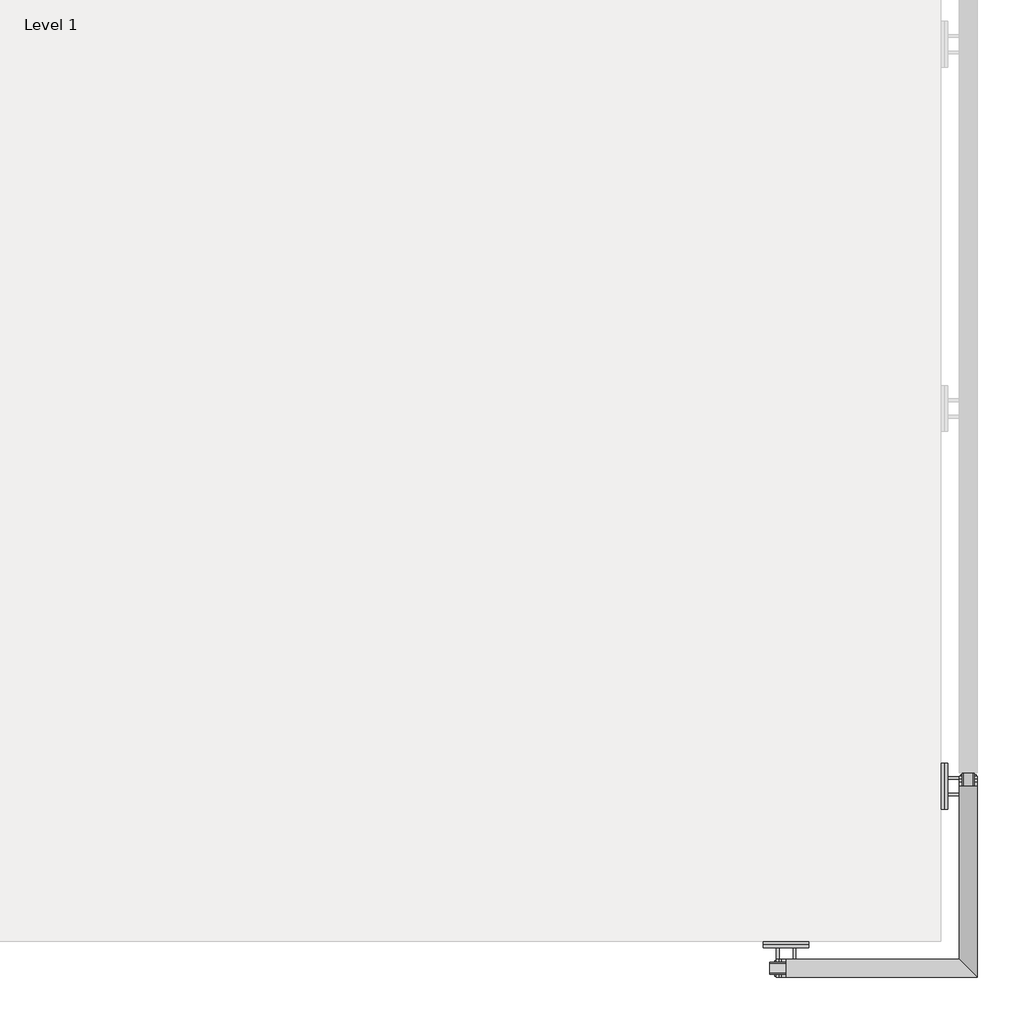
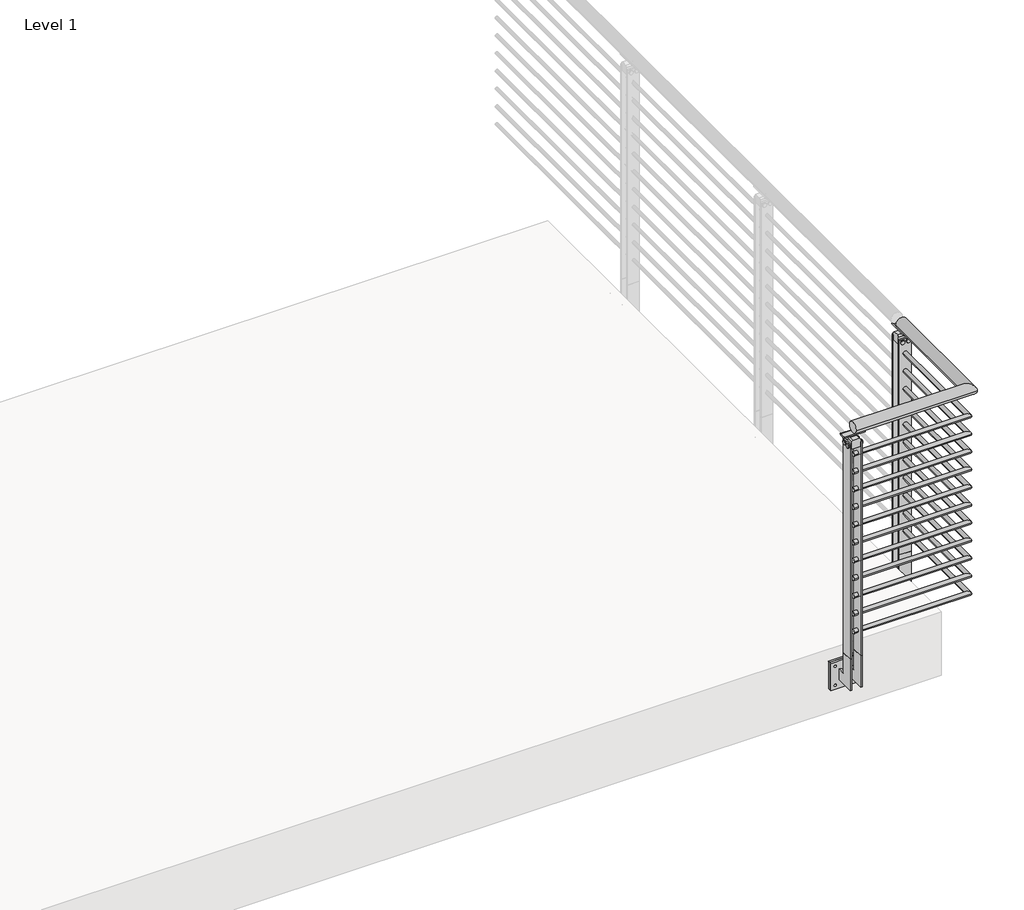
# One storey, part 3 of 36: 1 railing.
"""IFC4 building model written with IfcOpenShell, lengths in millimetres."""

from ifc_helpers import new_model, si_unit, point, frame, frame_2d, origin, origin_with_axes, place, context, project, spatial, polyline, circle_curve, ellipse_curve, trimmed, segment, composite_curve, outline, extrude, element, save
from ifc_brep_helpers import plane_surface, cylinder_surface, revolved_surface, advanced_brep

model = new_model("IFC4")

# Units and contexts
model_context = context("Model", 3, world=origin())
ifc_project = project(units=[si_unit("LENGTHUNIT", "METRE", prefix="MILLI")], contexts=[model_context])

# Site, building, storey
site = spatial("IfcSite", under=ifc_project)
building = spatial("IfcBuilding", under=site)
storey = spatial("IfcBuildingStorey", under=building, Name="Level 1", Elevation=0.0)

# Railing
placement = place(None, origin())
element("IfcRailing", 1, ObjectType="VIVA-BLADE-Multiline-Fascia Mount-Corner", at=placement, inside=storey, context=model_context, shape_type="SolidModel", body=[
    advanced_brep(
    [(-5365.1880416, -75066.0334719, 1054.1), (-5365.1880416, -75116.8334719, 1054.1), (-4831.7880416, -75116.8334719, 1054.1), (-4882.5880416, -75066.0334719, 1054.1), (-4882.5880416, -74583.4334719, 1054.1), (-4831.7880416, -74583.4334719, 1054.1)],
    [
        (0, 1, circle_curve(frame((-5365.1880416, -75091.4334719, 1054.1), z_axis=(-1.0, 0.0, 0.0), x_axis=(0.0, -1.0, 0.0)), 25.4)),
        (1, 0, circle_curve(frame((-5365.1880416, -75091.4334719, 1054.1), z_axis=(-1.0, 0.0, 0.0), x_axis=(0.0, -1.0, 0.0)), 25.4)),
        (2, 3, ellipse_curve(frame((-4857.1880416, -75091.4334719, 1054.1), z_axis=(-0.7071067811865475, -0.7071067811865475, 0.0), x_axis=(0.7071067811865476, -0.7071067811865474, 0.0)), 35.9210245, 25.4)),
        (3, 0),
        (1, 2),
        (3, 2, ellipse_curve(frame((-4857.1880416, -75091.4334719, 1054.1), z_axis=(-0.7071067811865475, -0.7071067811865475, 0.0), x_axis=(0.7071067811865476, -0.7071067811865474, 0.0)), 35.9210245, 25.4)),
        (4, 5, circle_curve(frame((-4857.1880416, -74583.4334719, 1054.1), z_axis=(0.0, 1.0, 0.0), x_axis=(1.0, 0.0, 0.0)), 25.4)),
        (5, 4, circle_curve(frame((-4857.1880416, -74583.4334719, 1054.1), z_axis=(0.0, 1.0, 0.0), x_axis=(1.0, 0.0, 0.0)), 25.4)),
        (4, 3),
        (2, 5),
    ],
    [
        plane_surface(frame((-5365.1880416, -75091.4334719, 1079.5), z_axis=(-1.0, 0.0, 0.0), x_axis=(0.0, -1.0, 0.0))),
        cylinder_surface(frame((-4857.1880416, -75091.4334719, 1054.1), z_axis=(1.0, 0.0, 0.0), x_axis=(0.0, -1.0, 0.0)), 25.4),
        plane_surface(frame((-4857.1880416, -74583.4334719, 1079.5), z_axis=(0.0, 1.0, 0.0), x_axis=(0.0, 0.0, -1.0))),
        cylinder_surface(frame((-4857.1880416, -74583.4334719, 1054.1), z_axis=(0.0, 1.0, 0.0), x_axis=(1.0, 0.0, 0.0)), 25.4),
    ],
    [
        (0, [[1, 2]]),
        (1, [[3, 4, -2, 5]]),
        (1, [[6, -5, -1, -4]]),
        (2, [[7, 8]]),
        (3, [[-7, 9, -3, 10]]),
        (3, [[-8, -10, -6, -9]]),
    ],
),
    advanced_brep(
    [(-4866.7130416, -74583.4334719, 930.275), (-4847.6630416, -74583.4334719, 930.275), (-4847.6630416, -75100.9584719, 930.275), (-4866.7130416, -75081.9084719, 930.275), (-5365.1880416, -75081.9084719, 930.275), (-5365.1880416, -75100.9584719, 930.275)],
    [
        (0, 1, circle_curve(frame((-4857.1880416, -74583.4334719, 930.275), z_axis=(0.0, 1.0, 0.0), x_axis=(1.0, 0.0, 0.0)), 9.525)),
        (1, 0, circle_curve(frame((-4857.1880416, -74583.4334719, 930.275), z_axis=(0.0, 1.0, 0.0), x_axis=(1.0, 0.0, 0.0)), 9.525)),
        (1, 2),
        (2, 3, ellipse_curve(frame((-4857.1880416, -75091.4334719, 930.275), z_axis=(0.7071067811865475, 0.7071067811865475, 0.0), x_axis=(-0.7071067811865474, 0.7071067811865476, 0.0)), 13.4703842, 9.525)),
        (3, 0),
        (3, 2, ellipse_curve(frame((-4857.1880416, -75091.4334719, 930.275), z_axis=(0.7071067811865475, 0.7071067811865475, 0.0), x_axis=(-0.7071067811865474, 0.7071067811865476, 0.0)), 13.4703842, 9.525)),
        (4, 5, circle_curve(frame((-5365.1880416, -75091.4334719, 930.275), z_axis=(-1.0, 0.0, 0.0), x_axis=(0.0, -1.0, 0.0)), 9.525)),
        (5, 4, circle_curve(frame((-5365.1880416, -75091.4334719, 930.275), z_axis=(-1.0, 0.0, 0.0), x_axis=(0.0, -1.0, 0.0)), 9.525)),
        (2, 5),
        (4, 3),
    ],
    [
        plane_surface(frame((-4857.1880416, -74583.4334719, 939.8), z_axis=(0.0, 1.0, 0.0), x_axis=(0.0, 0.0, -1.0))),
        cylinder_surface(frame((-4857.1880416, -74583.4334719, 930.275), z_axis=(0.0, 1.0, 0.0), x_axis=(1.0, 0.0, 0.0)), 9.525),
        plane_surface(frame((-5365.1880416, -75091.4334719, 939.8), z_axis=(-1.0, 0.0, 0.0), x_axis=(0.0, -1.0, 0.0))),
        cylinder_surface(frame((-4857.1880416, -75091.4334719, 930.275), z_axis=(1.0, 0.0, 0.0), x_axis=(0.0, -1.0, 0.0)), 9.525),
    ],
    [
        (0, [[1, 2]]),
        (1, [[-2, 3, 4, 5]]),
        (1, [[-1, -5, 6, -3]]),
        (2, [[7, 8]]),
        (3, [[-4, 9, -7, 10]]),
        (3, [[-6, -10, -8, -9]]),
    ],
),
    advanced_brep(
    [(-4866.7130416, -74583.4334719, 847.725), (-4847.6630416, -74583.4334719, 847.725), (-4847.6630416, -75100.9584719, 847.725), (-4866.7130416, -75081.9084719, 847.725), (-5365.1880416, -75081.9084719, 847.725), (-5365.1880416, -75100.9584719, 847.725)],
    [
        (0, 1, circle_curve(frame((-4857.1880416, -74583.4334719, 847.725), z_axis=(0.0, 1.0, 0.0), x_axis=(1.0, 0.0, 0.0)), 9.525)),
        (1, 0, circle_curve(frame((-4857.1880416, -74583.4334719, 847.725), z_axis=(0.0, 1.0, 0.0), x_axis=(1.0, 0.0, 0.0)), 9.525)),
        (1, 2),
        (2, 3, ellipse_curve(frame((-4857.1880416, -75091.4334719, 847.725), z_axis=(0.7071067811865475, 0.7071067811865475, 0.0), x_axis=(-0.7071067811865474, 0.7071067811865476, 0.0)), 13.4703842, 9.525)),
        (3, 0),
        (3, 2, ellipse_curve(frame((-4857.1880416, -75091.4334719, 847.725), z_axis=(0.7071067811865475, 0.7071067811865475, 0.0), x_axis=(-0.7071067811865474, 0.7071067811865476, 0.0)), 13.4703842, 9.525)),
        (4, 5, circle_curve(frame((-5365.1880416, -75091.4334719, 847.725), z_axis=(-1.0, 0.0, 0.0), x_axis=(0.0, -1.0, 0.0)), 9.525)),
        (5, 4, circle_curve(frame((-5365.1880416, -75091.4334719, 847.725), z_axis=(-1.0, 0.0, 0.0), x_axis=(0.0, -1.0, 0.0)), 9.525)),
        (2, 5),
        (4, 3),
    ],
    [
        plane_surface(frame((-4857.1880416, -74583.4334719, 857.25), z_axis=(0.0, 1.0, 0.0), x_axis=(0.0, 0.0, -1.0))),
        cylinder_surface(frame((-4857.1880416, -74583.4334719, 847.725), z_axis=(0.0, 1.0, 0.0), x_axis=(1.0, 0.0, 0.0)), 9.525),
        plane_surface(frame((-5365.1880416, -75091.4334719, 857.25), z_axis=(-1.0, 0.0, 0.0), x_axis=(0.0, -1.0, 0.0))),
        cylinder_surface(frame((-4857.1880416, -75091.4334719, 847.725), z_axis=(1.0, 0.0, 0.0), x_axis=(0.0, -1.0, 0.0)), 9.525),
    ],
    [
        (0, [[1, 2]]),
        (1, [[-2, 3, 4, 5]]),
        (1, [[-1, -5, 6, -3]]),
        (2, [[7, 8]]),
        (3, [[-4, 9, -7, 10]]),
        (3, [[-6, -10, -8, -9]]),
    ],
),
    advanced_brep(
    [(-4866.7130416, -74583.4334719, 765.175), (-4847.6630416, -74583.4334719, 765.175), (-4847.6630416, -75100.9584719, 765.175), (-4866.7130416, -75081.9084719, 765.175), (-5365.1880416, -75081.9084719, 765.175), (-5365.1880416, -75100.9584719, 765.175)],
    [
        (0, 1, circle_curve(frame((-4857.1880416, -74583.4334719, 765.175), z_axis=(0.0, 1.0, 0.0), x_axis=(1.0, 0.0, 0.0)), 9.525)),
        (1, 0, circle_curve(frame((-4857.1880416, -74583.4334719, 765.175), z_axis=(0.0, 1.0, 0.0), x_axis=(1.0, 0.0, 0.0)), 9.525)),
        (1, 2),
        (2, 3, ellipse_curve(frame((-4857.1880416, -75091.4334719, 765.175), z_axis=(0.7071067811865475, 0.7071067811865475, 0.0), x_axis=(-0.7071067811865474, 0.7071067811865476, 0.0)), 13.4703842, 9.525)),
        (3, 0),
        (3, 2, ellipse_curve(frame((-4857.1880416, -75091.4334719, 765.175), z_axis=(0.7071067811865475, 0.7071067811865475, 0.0), x_axis=(-0.7071067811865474, 0.7071067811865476, 0.0)), 13.4703842, 9.525)),
        (4, 5, circle_curve(frame((-5365.1880416, -75091.4334719, 765.175), z_axis=(-1.0, 0.0, 0.0), x_axis=(0.0, -1.0, 0.0)), 9.525)),
        (5, 4, circle_curve(frame((-5365.1880416, -75091.4334719, 765.175), z_axis=(-1.0, 0.0, 0.0), x_axis=(0.0, -1.0, 0.0)), 9.525)),
        (2, 5),
        (4, 3),
    ],
    [
        plane_surface(frame((-4857.1880416, -74583.4334719, 774.7), z_axis=(0.0, 1.0, 0.0), x_axis=(0.0, 0.0, -1.0))),
        cylinder_surface(frame((-4857.1880416, -74583.4334719, 765.175), z_axis=(0.0, 1.0, 0.0), x_axis=(1.0, 0.0, 0.0)), 9.525),
        plane_surface(frame((-5365.1880416, -75091.4334719, 774.7), z_axis=(-1.0, 0.0, 0.0), x_axis=(0.0, -1.0, 0.0))),
        cylinder_surface(frame((-4857.1880416, -75091.4334719, 765.175), z_axis=(1.0, 0.0, 0.0), x_axis=(0.0, -1.0, 0.0)), 9.525),
    ],
    [
        (0, [[1, 2]]),
        (1, [[-2, 3, 4, 5]]),
        (1, [[-1, -5, 6, -3]]),
        (2, [[7, 8]]),
        (3, [[-4, 9, -7, 10]]),
        (3, [[-6, -10, -8, -9]]),
    ],
),
    advanced_brep(
    [(-4866.7130416, -74583.4334719, 682.625), (-4847.6630416, -74583.4334719, 682.625), (-4847.6630416, -75100.9584719, 682.625), (-4866.7130416, -75081.9084719, 682.625), (-5365.1880416, -75081.9084719, 682.625), (-5365.1880416, -75100.9584719, 682.625)],
    [
        (0, 1, circle_curve(frame((-4857.1880416, -74583.4334719, 682.625), z_axis=(0.0, 1.0, 0.0), x_axis=(1.0, 0.0, 0.0)), 9.525)),
        (1, 0, circle_curve(frame((-4857.1880416, -74583.4334719, 682.625), z_axis=(0.0, 1.0, 0.0), x_axis=(1.0, 0.0, 0.0)), 9.525)),
        (1, 2),
        (2, 3, ellipse_curve(frame((-4857.1880416, -75091.4334719, 682.625), z_axis=(0.7071067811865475, 0.7071067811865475, 0.0), x_axis=(-0.7071067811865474, 0.7071067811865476, 0.0)), 13.4703842, 9.525)),
        (3, 0),
        (3, 2, ellipse_curve(frame((-4857.1880416, -75091.4334719, 682.625), z_axis=(0.7071067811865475, 0.7071067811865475, 0.0), x_axis=(-0.7071067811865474, 0.7071067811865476, 0.0)), 13.4703842, 9.525)),
        (4, 5, circle_curve(frame((-5365.1880416, -75091.4334719, 682.625), z_axis=(-1.0, 0.0, 0.0), x_axis=(0.0, -1.0, 0.0)), 9.525)),
        (5, 4, circle_curve(frame((-5365.1880416, -75091.4334719, 682.625), z_axis=(-1.0, 0.0, 0.0), x_axis=(0.0, -1.0, 0.0)), 9.525)),
        (2, 5),
        (4, 3),
    ],
    [
        plane_surface(frame((-4857.1880416, -74583.4334719, 692.15), z_axis=(0.0, 1.0, 0.0), x_axis=(0.0, 0.0, -1.0))),
        cylinder_surface(frame((-4857.1880416, -74583.4334719, 682.625), z_axis=(0.0, 1.0, 0.0), x_axis=(1.0, 0.0, 0.0)), 9.525),
        plane_surface(frame((-5365.1880416, -75091.4334719, 692.15), z_axis=(-1.0, 0.0, 0.0), x_axis=(0.0, -1.0, 0.0))),
        cylinder_surface(frame((-4857.1880416, -75091.4334719, 682.625), z_axis=(1.0, 0.0, 0.0), x_axis=(0.0, -1.0, 0.0)), 9.525),
    ],
    [
        (0, [[1, 2]]),
        (1, [[-2, 3, 4, 5]]),
        (1, [[-1, -5, 6, -3]]),
        (2, [[7, 8]]),
        (3, [[-4, 9, -7, 10]]),
        (3, [[-6, -10, -8, -9]]),
    ],
),
    advanced_brep(
    [(-4866.7130416, -74583.4334719, 600.075), (-4847.6630416, -74583.4334719, 600.075), (-4847.6630416, -75100.9584719, 600.075), (-4866.7130416, -75081.9084719, 600.075), (-5365.1880416, -75081.9084719, 600.075), (-5365.1880416, -75100.9584719, 600.075)],
    [
        (0, 1, circle_curve(frame((-4857.1880416, -74583.4334719, 600.075), z_axis=(0.0, 1.0, 0.0), x_axis=(1.0, 0.0, 0.0)), 9.525)),
        (1, 0, circle_curve(frame((-4857.1880416, -74583.4334719, 600.075), z_axis=(0.0, 1.0, 0.0), x_axis=(1.0, 0.0, 0.0)), 9.525)),
        (1, 2),
        (2, 3, ellipse_curve(frame((-4857.1880416, -75091.4334719, 600.075), z_axis=(0.7071067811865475, 0.7071067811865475, 0.0), x_axis=(-0.7071067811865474, 0.7071067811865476, 0.0)), 13.4703842, 9.525)),
        (3, 0),
        (3, 2, ellipse_curve(frame((-4857.1880416, -75091.4334719, 600.075), z_axis=(0.7071067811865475, 0.7071067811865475, 0.0), x_axis=(-0.7071067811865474, 0.7071067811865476, 0.0)), 13.4703842, 9.525)),
        (4, 5, circle_curve(frame((-5365.1880416, -75091.4334719, 600.075), z_axis=(-1.0, 0.0, 0.0), x_axis=(0.0, -1.0, 0.0)), 9.525)),
        (5, 4, circle_curve(frame((-5365.1880416, -75091.4334719, 600.075), z_axis=(-1.0, 0.0, 0.0), x_axis=(0.0, -1.0, 0.0)), 9.525)),
        (2, 5),
        (4, 3),
    ],
    [
        plane_surface(frame((-4857.1880416, -74583.4334719, 609.6), z_axis=(0.0, 1.0, 0.0), x_axis=(0.0, 0.0, -1.0))),
        cylinder_surface(frame((-4857.1880416, -74583.4334719, 600.075), z_axis=(0.0, 1.0, 0.0), x_axis=(1.0, 0.0, 0.0)), 9.525),
        plane_surface(frame((-5365.1880416, -75091.4334719, 609.6), z_axis=(-1.0, 0.0, 0.0), x_axis=(0.0, -1.0, 0.0))),
        cylinder_surface(frame((-4857.1880416, -75091.4334719, 600.075), z_axis=(1.0, 0.0, 0.0), x_axis=(0.0, -1.0, 0.0)), 9.525),
    ],
    [
        (0, [[1, 2]]),
        (1, [[-2, 3, 4, 5]]),
        (1, [[-1, -5, 6, -3]]),
        (2, [[7, 8]]),
        (3, [[-4, 9, -7, 10]]),
        (3, [[-6, -10, -8, -9]]),
    ],
),
    advanced_brep(
    [(-4866.7130416, -74583.4334719, 517.525), (-4847.6630416, -74583.4334719, 517.525), (-4847.6630416, -75100.9584719, 517.525), (-4866.7130416, -75081.9084719, 517.525), (-5365.1880416, -75081.9084719, 517.525), (-5365.1880416, -75100.9584719, 517.525)],
    [
        (0, 1, circle_curve(frame((-4857.1880416, -74583.4334719, 517.525), z_axis=(0.0, 1.0, 0.0), x_axis=(1.0, 0.0, 0.0)), 9.525)),
        (1, 0, circle_curve(frame((-4857.1880416, -74583.4334719, 517.525), z_axis=(0.0, 1.0, 0.0), x_axis=(1.0, 0.0, 0.0)), 9.525)),
        (1, 2),
        (2, 3, ellipse_curve(frame((-4857.1880416, -75091.4334719, 517.525), z_axis=(0.7071067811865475, 0.7071067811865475, 0.0), x_axis=(-0.7071067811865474, 0.7071067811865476, 0.0)), 13.4703842, 9.525)),
        (3, 0),
        (3, 2, ellipse_curve(frame((-4857.1880416, -75091.4334719, 517.525), z_axis=(0.7071067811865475, 0.7071067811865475, 0.0), x_axis=(-0.7071067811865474, 0.7071067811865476, 0.0)), 13.4703842, 9.525)),
        (4, 5, circle_curve(frame((-5365.1880416, -75091.4334719, 517.525), z_axis=(-1.0, 0.0, 0.0), x_axis=(0.0, -1.0, 0.0)), 9.525)),
        (5, 4, circle_curve(frame((-5365.1880416, -75091.4334719, 517.525), z_axis=(-1.0, 0.0, 0.0), x_axis=(0.0, -1.0, 0.0)), 9.525)),
        (2, 5),
        (4, 3),
    ],
    [
        plane_surface(frame((-4857.1880416, -74583.4334719, 527.05), z_axis=(0.0, 1.0, 0.0), x_axis=(0.0, 0.0, -1.0))),
        cylinder_surface(frame((-4857.1880416, -74583.4334719, 517.525), z_axis=(0.0, 1.0, 0.0), x_axis=(1.0, 0.0, 0.0)), 9.525),
        plane_surface(frame((-5365.1880416, -75091.4334719, 527.05), z_axis=(-1.0, 0.0, 0.0), x_axis=(0.0, -1.0, 0.0))),
        cylinder_surface(frame((-4857.1880416, -75091.4334719, 517.525), z_axis=(1.0, 0.0, 0.0), x_axis=(0.0, -1.0, 0.0)), 9.525),
    ],
    [
        (0, [[1, 2]]),
        (1, [[-2, 3, 4, 5]]),
        (1, [[-1, -5, 6, -3]]),
        (2, [[7, 8]]),
        (3, [[-4, 9, -7, 10]]),
        (3, [[-6, -10, -8, -9]]),
    ],
),
    advanced_brep(
    [(-4866.7130416, -74583.4334719, 434.975), (-4847.6630416, -74583.4334719, 434.975), (-4847.6630416, -75100.9584719, 434.975), (-4866.7130416, -75081.9084719, 434.975), (-5365.1880416, -75081.9084719, 434.975), (-5365.1880416, -75100.9584719, 434.975)],
    [
        (0, 1, circle_curve(frame((-4857.1880416, -74583.4334719, 434.975), z_axis=(0.0, 1.0, 0.0), x_axis=(1.0, 0.0, 0.0)), 9.525)),
        (1, 0, circle_curve(frame((-4857.1880416, -74583.4334719, 434.975), z_axis=(0.0, 1.0, 0.0), x_axis=(1.0, 0.0, 0.0)), 9.525)),
        (1, 2),
        (2, 3, ellipse_curve(frame((-4857.1880416, -75091.4334719, 434.975), z_axis=(0.7071067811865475, 0.7071067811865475, 0.0), x_axis=(-0.7071067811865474, 0.7071067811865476, 0.0)), 13.4703842, 9.525)),
        (3, 0),
        (3, 2, ellipse_curve(frame((-4857.1880416, -75091.4334719, 434.975), z_axis=(0.7071067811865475, 0.7071067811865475, 0.0), x_axis=(-0.7071067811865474, 0.7071067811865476, 0.0)), 13.4703842, 9.525)),
        (4, 5, circle_curve(frame((-5365.1880416, -75091.4334719, 434.975), z_axis=(-1.0, 0.0, 0.0), x_axis=(0.0, -1.0, 0.0)), 9.525)),
        (5, 4, circle_curve(frame((-5365.1880416, -75091.4334719, 434.975), z_axis=(-1.0, 0.0, 0.0), x_axis=(0.0, -1.0, 0.0)), 9.525)),
        (2, 5),
        (4, 3),
    ],
    [
        plane_surface(frame((-4857.1880416, -74583.4334719, 444.5), z_axis=(0.0, 1.0, 0.0), x_axis=(0.0, 0.0, -1.0))),
        cylinder_surface(frame((-4857.1880416, -74583.4334719, 434.975), z_axis=(0.0, 1.0, 0.0), x_axis=(1.0, 0.0, 0.0)), 9.525),
        plane_surface(frame((-5365.1880416, -75091.4334719, 444.5), z_axis=(-1.0, 0.0, 0.0), x_axis=(0.0, -1.0, 0.0))),
        cylinder_surface(frame((-4857.1880416, -75091.4334719, 434.975), z_axis=(1.0, 0.0, 0.0), x_axis=(0.0, -1.0, 0.0)), 9.525),
    ],
    [
        (0, [[1, 2]]),
        (1, [[-2, 3, 4, 5]]),
        (1, [[-1, -5, 6, -3]]),
        (2, [[7, 8]]),
        (3, [[-4, 9, -7, 10]]),
        (3, [[-6, -10, -8, -9]]),
    ],
),
    advanced_brep(
    [(-4866.7130416, -74583.4334719, 352.425), (-4847.6630416, -74583.4334719, 352.425), (-4847.6630416, -75100.9584719, 352.425), (-4866.7130416, -75081.9084719, 352.425), (-5365.1880416, -75081.9084719, 352.425), (-5365.1880416, -75100.9584719, 352.425)],
    [
        (0, 1, circle_curve(frame((-4857.1880416, -74583.4334719, 352.425), z_axis=(0.0, 1.0, 0.0), x_axis=(1.0, 0.0, 0.0)), 9.525)),
        (1, 0, circle_curve(frame((-4857.1880416, -74583.4334719, 352.425), z_axis=(0.0, 1.0, 0.0), x_axis=(1.0, 0.0, 0.0)), 9.525)),
        (1, 2),
        (2, 3, ellipse_curve(frame((-4857.1880416, -75091.4334719, 352.425), z_axis=(0.7071067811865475, 0.7071067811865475, 0.0), x_axis=(-0.7071067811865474, 0.7071067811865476, 0.0)), 13.4703842, 9.525)),
        (3, 0),
        (3, 2, ellipse_curve(frame((-4857.1880416, -75091.4334719, 352.425), z_axis=(0.7071067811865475, 0.7071067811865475, 0.0), x_axis=(-0.7071067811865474, 0.7071067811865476, 0.0)), 13.4703842, 9.525)),
        (4, 5, circle_curve(frame((-5365.1880416, -75091.4334719, 352.425), z_axis=(-1.0, 0.0, 0.0), x_axis=(0.0, -1.0, 0.0)), 9.525)),
        (5, 4, circle_curve(frame((-5365.1880416, -75091.4334719, 352.425), z_axis=(-1.0, 0.0, 0.0), x_axis=(0.0, -1.0, 0.0)), 9.525)),
        (2, 5),
        (4, 3),
    ],
    [
        plane_surface(frame((-4857.1880416, -74583.4334719, 361.95), z_axis=(0.0, 1.0, 0.0), x_axis=(0.0, 0.0, -1.0))),
        cylinder_surface(frame((-4857.1880416, -74583.4334719, 352.425), z_axis=(0.0, 1.0, 0.0), x_axis=(1.0, 0.0, 0.0)), 9.525),
        plane_surface(frame((-5365.1880416, -75091.4334719, 361.95), z_axis=(-1.0, 0.0, 0.0), x_axis=(0.0, -1.0, 0.0))),
        cylinder_surface(frame((-4857.1880416, -75091.4334719, 352.425), z_axis=(1.0, 0.0, 0.0), x_axis=(0.0, -1.0, 0.0)), 9.525),
    ],
    [
        (0, [[1, 2]]),
        (1, [[-2, 3, 4, 5]]),
        (1, [[-1, -5, 6, -3]]),
        (2, [[7, 8]]),
        (3, [[-4, 9, -7, 10]]),
        (3, [[-6, -10, -8, -9]]),
    ],
),
    advanced_brep(
    [(-4866.7130416, -74583.4334719, 269.875), (-4847.6630416, -74583.4334719, 269.875), (-4847.6630416, -75100.9584719, 269.875), (-4866.7130416, -75081.9084719, 269.875), (-5365.1880416, -75081.9084719, 269.875), (-5365.1880416, -75100.9584719, 269.875)],
    [
        (0, 1, circle_curve(frame((-4857.1880416, -74583.4334719, 269.875), z_axis=(0.0, 1.0, 0.0), x_axis=(1.0, 0.0, 0.0)), 9.525)),
        (1, 0, circle_curve(frame((-4857.1880416, -74583.4334719, 269.875), z_axis=(0.0, 1.0, 0.0), x_axis=(1.0, 0.0, 0.0)), 9.525)),
        (1, 2),
        (2, 3, ellipse_curve(frame((-4857.1880416, -75091.4334719, 269.875), z_axis=(0.7071067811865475, 0.7071067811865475, 0.0), x_axis=(-0.7071067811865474, 0.7071067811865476, 0.0)), 13.4703842, 9.525)),
        (3, 0),
        (3, 2, ellipse_curve(frame((-4857.1880416, -75091.4334719, 269.875), z_axis=(0.7071067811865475, 0.7071067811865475, 0.0), x_axis=(-0.7071067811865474, 0.7071067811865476, 0.0)), 13.4703842, 9.525)),
        (4, 5, circle_curve(frame((-5365.1880416, -75091.4334719, 269.875), z_axis=(-1.0, 0.0, 0.0), x_axis=(0.0, -1.0, 0.0)), 9.525)),
        (5, 4, circle_curve(frame((-5365.1880416, -75091.4334719, 269.875), z_axis=(-1.0, 0.0, 0.0), x_axis=(0.0, -1.0, 0.0)), 9.525)),
        (2, 5),
        (4, 3),
    ],
    [
        plane_surface(frame((-4857.1880416, -74583.4334719, 279.4), z_axis=(0.0, 1.0, 0.0), x_axis=(0.0, 0.0, -1.0))),
        cylinder_surface(frame((-4857.1880416, -74583.4334719, 269.875), z_axis=(0.0, 1.0, 0.0), x_axis=(1.0, 0.0, 0.0)), 9.525),
        plane_surface(frame((-5365.1880416, -75091.4334719, 279.4), z_axis=(-1.0, 0.0, 0.0), x_axis=(0.0, -1.0, 0.0))),
        cylinder_surface(frame((-4857.1880416, -75091.4334719, 269.875), z_axis=(1.0, 0.0, 0.0), x_axis=(0.0, -1.0, 0.0)), 9.525),
    ],
    [
        (0, [[1, 2]]),
        (1, [[-2, 3, 4, 5]]),
        (1, [[-1, -5, 6, -3]]),
        (2, [[7, 8]]),
        (3, [[-4, 9, -7, 10]]),
        (3, [[-6, -10, -8, -9]]),
    ],
),
    advanced_brep(
    [(-4866.7130416, -74583.4334719, 187.325), (-4847.6630416, -74583.4334719, 187.325), (-4847.6630416, -75100.9584719, 187.325), (-4866.7130416, -75081.9084719, 187.325), (-5365.1880416, -75081.9084719, 187.325), (-5365.1880416, -75100.9584719, 187.325)],
    [
        (0, 1, circle_curve(frame((-4857.1880416, -74583.4334719, 187.325), z_axis=(0.0, 1.0, 0.0), x_axis=(1.0, 0.0, 0.0)), 9.525)),
        (1, 0, circle_curve(frame((-4857.1880416, -74583.4334719, 187.325), z_axis=(0.0, 1.0, 0.0), x_axis=(1.0, 0.0, 0.0)), 9.525)),
        (1, 2),
        (2, 3, ellipse_curve(frame((-4857.1880416, -75091.4334719, 187.325), z_axis=(0.7071067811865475, 0.7071067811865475, 0.0), x_axis=(-0.7071067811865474, 0.7071067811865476, 0.0)), 13.4703842, 9.525)),
        (3, 0),
        (3, 2, ellipse_curve(frame((-4857.1880416, -75091.4334719, 187.325), z_axis=(0.7071067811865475, 0.7071067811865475, 0.0), x_axis=(-0.7071067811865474, 0.7071067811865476, 0.0)), 13.4703842, 9.525)),
        (4, 5, circle_curve(frame((-5365.1880416, -75091.4334719, 187.325), z_axis=(-1.0, 0.0, 0.0), x_axis=(0.0, -1.0, 0.0)), 9.525)),
        (5, 4, circle_curve(frame((-5365.1880416, -75091.4334719, 187.325), z_axis=(-1.0, 0.0, 0.0), x_axis=(0.0, -1.0, 0.0)), 9.525)),
        (2, 5),
        (4, 3),
    ],
    [
        plane_surface(frame((-4857.1880416, -74583.4334719, 196.85), z_axis=(0.0, 1.0, 0.0), x_axis=(0.0, 0.0, -1.0))),
        cylinder_surface(frame((-4857.1880416, -74583.4334719, 187.325), z_axis=(0.0, 1.0, 0.0), x_axis=(1.0, 0.0, 0.0)), 9.525),
        plane_surface(frame((-5365.1880416, -75091.4334719, 196.85), z_axis=(-1.0, 0.0, 0.0), x_axis=(0.0, -1.0, 0.0))),
        cylinder_surface(frame((-4857.1880416, -75091.4334719, 187.325), z_axis=(1.0, 0.0, 0.0), x_axis=(0.0, -1.0, 0.0)), 9.525),
    ],
    [
        (0, [[1, 2]]),
        (1, [[-2, 3, 4, 5]]),
        (1, [[-1, -5, 6, -3]]),
        (2, [[7, 8]]),
        (3, [[-4, 9, -7, 10]]),
        (3, [[-6, -10, -8, -9]]),
    ],
),
    advanced_brep(
    [(-4866.7130416, -74583.4334719, 104.775), (-4847.6630416, -74583.4334719, 104.775), (-4847.6630416, -75100.9584719, 104.775), (-4866.7130416, -75081.9084719, 104.775), (-5365.1880416, -75081.9084719, 104.775), (-5365.1880416, -75100.9584719, 104.775)],
    [
        (0, 1, circle_curve(frame((-4857.1880416, -74583.4334719, 104.775), z_axis=(0.0, 1.0, 0.0), x_axis=(1.0, 0.0, 0.0)), 9.525)),
        (1, 0, circle_curve(frame((-4857.1880416, -74583.4334719, 104.775), z_axis=(0.0, 1.0, 0.0), x_axis=(1.0, 0.0, 0.0)), 9.525)),
        (1, 2),
        (2, 3, ellipse_curve(frame((-4857.1880416, -75091.4334719, 104.775), z_axis=(0.7071067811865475, 0.7071067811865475, 0.0), x_axis=(-0.7071067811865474, 0.7071067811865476, 0.0)), 13.4703842, 9.525)),
        (3, 0),
        (3, 2, ellipse_curve(frame((-4857.1880416, -75091.4334719, 104.775), z_axis=(0.7071067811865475, 0.7071067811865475, 0.0), x_axis=(-0.7071067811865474, 0.7071067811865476, 0.0)), 13.4703842, 9.525)),
        (4, 5, circle_curve(frame((-5365.1880416, -75091.4334719, 104.775), z_axis=(-1.0, 0.0, 0.0), x_axis=(0.0, -1.0, 0.0)), 9.525)),
        (5, 4, circle_curve(frame((-5365.1880416, -75091.4334719, 104.775), z_axis=(-1.0, 0.0, 0.0), x_axis=(0.0, -1.0, 0.0)), 9.525)),
        (2, 5),
        (4, 3),
    ],
    [
        plane_surface(frame((-4857.1880416, -74583.4334719, 114.3), z_axis=(0.0, 1.0, 0.0), x_axis=(0.0, 0.0, -1.0))),
        cylinder_surface(frame((-4857.1880416, -74583.4334719, 104.775), z_axis=(0.0, 1.0, 0.0), x_axis=(1.0, 0.0, 0.0)), 9.525),
        plane_surface(frame((-5365.1880416, -75091.4334719, 114.3), z_axis=(-1.0, 0.0, 0.0), x_axis=(0.0, -1.0, 0.0))),
        cylinder_surface(frame((-4857.1880416, -75091.4334719, 104.775), z_axis=(1.0, 0.0, 0.0), x_axis=(0.0, -1.0, 0.0)), 9.525),
    ],
    [
        (0, [[1, 2]]),
        (1, [[-2, 3, 4, 5]]),
        (1, [[-1, -5, 6, -3]]),
        (2, [[7, 8]]),
        (3, [[-4, 9, -7, 10]]),
        (3, [[-6, -10, -8, -9]]),
    ],
),
    extrude(outline(polyline([(-75116.8359998, -146.05), (-75116.8359998, 0.0), (-75066.0359998, 0.0), (-75066.0359998, -95.25), (-75034.2832661, -95.25), (-75034.2832661, -146.05), (-75116.8359998, -146.05)])), frame((-5346.1380416, 0.0, 0.0), z_axis=(1.0, 0.0, 0.0), x_axis=(0.0, 1.0, 0.0)), (0.0, 0.0, 1.0), 8.0248357),
    extrude(outline(polyline([(-75066.0359998, 0.0), (-75066.0359998, -95.25), (-75034.2832661, -95.25), (-75034.2832661, -146.05), (-75116.8359998, -146.05), (-75116.8359998, 0.0), (-75066.0359998, 0.0)])), frame((-5392.2390036, 0.0, 0.0), z_axis=(1.0, 0.0, 0.0), x_axis=(0.0, 1.0, 0.0)), (0.0, 0.0, 1.0), 8.001),
    advanced_brep(
    [(-5410.4254416, -75078.6733482, 1032.0967655), (-5410.4254416, -75074.8374508, 1027.707533), (-5410.4254416, -75106.3543431, 1027.1267745), (-5410.4254416, -75103.5454127, 1031.9535285), (-5319.9506416, -75078.6733482, 1032.0967655), (-5319.9506416, -75103.6323849, 1032.0018447), (-5319.9506416, -75106.4681364, 1027.1893964), (-5319.9506416, -75074.8374508, 1027.707533)],
    [
        (0, 1, circle_curve(frame((-5410.4254416, -75077.1257905, 1029.5784521), z_axis=(-1.0, 0.0, 0.0), x_axis=(0.0, 1.0, 0.0)), 2.9558141)),
        (1, 2, circle_curve(frame((-5410.4254416, -75091.103688, 1054.9742164), z_axis=(-1.0, 0.0, 0.0), x_axis=(0.0, 1.0, 0.0)), 31.75)),
        (2, 3, circle_curve(frame((-5410.4254416, -75104.877038, 1029.4993599), z_axis=(-1.0, 0.0, 0.0), x_axis=(0.0, 1.0, 0.0)), 2.7949225)),
        (3, 0, circle_curve(frame((-5410.4254416, -75091.2371511, 1054.2115898), z_axis=(1.0, 0.0, 0.0), x_axis=(0.0, 1.0, 0.0)), 25.4345159)),
        (4, 5, circle_curve(frame((-5319.9506416, -75091.2371511, 1054.2115898), z_axis=(-1.0, 0.0, 0.0), x_axis=(0.0, 1.0, 0.0)), 25.4345159)),
        (5, 6, circle_curve(frame((-5319.9506416, -75104.877038, 1029.4993599), z_axis=(1.0, 0.0, 0.0), x_axis=(0.0, 1.0, 0.0)), 2.7949225)),
        (6, 7, circle_curve(frame((-5319.9506416, -75091.103688, 1054.9742164), z_axis=(1.0, 0.0, 0.0), x_axis=(0.0, 1.0, 0.0)), 31.75)),
        (7, 4, circle_curve(frame((-5319.9506416, -75077.1257905, 1029.5784521), z_axis=(1.0, 0.0, 0.0), x_axis=(0.0, 1.0, 0.0)), 2.9558141)),
        (3, 5),
        (4, 0),
        (2, 6),
        (1, 7),
    ],
    [
        plane_surface(frame((-5410.4254416, -75065.8026353, 1054.2115898), z_axis=(-1.0, 0.0, 0.0), x_axis=(0.0, 0.0, -1.0))),
        plane_surface(frame((-5319.9506416, -75065.8026353, 1054.2115898), z_axis=(1.0, 0.0, 0.0), x_axis=(0.0, 0.0, 1.0))),
        revolved_surface(polyline([(-5319.9506416, -75065.8026352, 1054.2115898), (-5410.4254416, -75065.8026352, 1054.2115898)]), (-5319.9506416, -75091.2371511, 1054.2115898), (1.0, 0.0, 0.0)),
        cylinder_surface(frame((-5319.9506416, -75104.877038, 1029.4993599), z_axis=(-1.0, 0.0, 0.0), x_axis=(0.0, 1.0, 0.0)), 2.7949225),
        cylinder_surface(frame((-5319.9506416, -75091.103688, 1054.9742164), z_axis=(-1.0, 0.0, 0.0), x_axis=(0.0, 1.0, 0.0)), 31.75),
        cylinder_surface(frame((-5319.9506416, -75077.1257905, 1029.5784521), z_axis=(-1.0, 0.0, 0.0), x_axis=(0.0, 1.0, 0.0)), 2.9558141),
    ],
    [
        (0, [[1, 2, 3, 4]]),
        (1, [[5, 6, 7, 8]]),
        (2, [[9, -5, 10, -4]]),
        (3, [[11, -6, -9, -3]]),
        (4, [[12, -7, -11, -2]]),
        (5, [[-10, -8, -12, -1]]),
    ],
),
    extrude(outline(polyline([(-5428.6761048, -75015.2332661), (-5301.6761048, -75015.2332661), (-5301.6761048, -75024.7582661), (-5428.6761048, -75024.7582661), (-5428.6761048, -75015.2332661)])), frame((0.0, 0.0, -184.15), z_axis=(0.0, 0.0, 1.0), x_axis=(1.0, 0.0, 0.0)), (0.0, 0.0, 1.0), 127.0),
    advanced_brep(
    [(-5377.8880416, -75088.8934719, 1014.4125), (-5392.2559565, -75088.8934719, 1028.7804149), (-5338.1201268, -75088.8934719, 1028.7804149), (-5352.4880416, -75088.8934719, 1014.4125), (-5377.8880416, -75093.9734719, 1014.4125), (-5352.4880416, -75093.9734719, 1014.4125), (-5338.1201268, -75093.9734719, 1028.7804149), (-5392.2559565, -75093.9734719, 1028.7804149)],
    [
        (0, 1, circle_curve(frame((-5392.2559565, -75088.8934719, 1014.4125), z_axis=(0.0, -1.0, 0.0), x_axis=(1.0, 0.0, 0.0)), 14.3679149)),
        (1, 2),
        (2, 3, circle_curve(frame((-5338.1201268, -75088.8934719, 1014.4125), z_axis=(0.0, -1.0, 0.0), x_axis=(1.0, 0.0, 0.0)), 14.3679149)),
        (3, 0),
        (4, 5),
        (5, 6, circle_curve(frame((-5338.1201268, -75093.9734719, 1014.4125), z_axis=(0.0, 1.0, 0.0), x_axis=(1.0, 0.0, 0.0)), 14.3679149)),
        (6, 7),
        (7, 4, circle_curve(frame((-5392.2559565, -75093.9734719, 1014.4125), z_axis=(0.0, 1.0, 0.0), x_axis=(1.0, 0.0, 0.0)), 14.3679149)),
        (3, 5),
        (4, 0),
        (2, 6),
        (1, 7),
    ],
    [
        plane_surface(frame((-5352.4880416, -75088.8934719, 1014.4125), z_axis=(0.0, 1.0, 0.0), x_axis=(1.0, 0.0, 0.0))),
        plane_surface(frame((-5352.4880416, -75093.9734719, 1014.4125), z_axis=(0.0, -1.0, 0.0), x_axis=(-1.0, 0.0, 0.0))),
        plane_surface(frame((-5377.8880416, -75088.8934719, 1014.4125), z_axis=(0.0, 0.0, -1.0), x_axis=(0.0, -1.0, 0.0))),
        revolved_surface(polyline([(-5323.7522119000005, -75093.9734719, 1014.4125), (-5323.7522119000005, -75088.8934719, 1014.4125)]), (-5338.1201268, -75093.9734719, 1014.4125), (0.0, -1.0, 0.0)),
        plane_surface(frame((-5338.1201268, -75088.8934719, 1028.7804149), z_axis=(0.0, 0.0, 1.0), x_axis=(0.0, -1.0, 0.0))),
        revolved_surface(polyline([(-5377.8880416, -75093.9734719, 1014.4125), (-5377.8880416, -75088.8934719, 1014.4125)]), (-5392.2559565, -75093.9734719, 1014.4125), (0.0, -1.0, 0.0)),
    ],
    [
        (0, [[1, 2, 3, 4]]),
        (1, [[5, 6, 7, 8]]),
        (2, [[9, -5, 10, -4]]),
        (3, [[11, -6, -9, -3]]),
        (4, [[12, -7, -11, -2]]),
        (5, [[-10, -8, -12, -1]]),
    ],
),
    extrude(outline(polyline([(-5338.1132059, -75066.0336752), (-5338.1132059, -75116.8359998), (-5346.1380416, -75116.8359998), (-5346.1380416, -75066.0336752), (-5338.1132059, -75066.0336752)])), origin_with_axes(), (0.0, 0.0, 1.0), 996.95),
    extrude(outline(polyline([(-184.15, -5301.6761048), (-57.15, -5301.6761048), (-57.15, -5428.6761048), (-184.15, -5428.6761048), (-184.15, -5301.6761048)]), holes=[composite_curve([segment(trimmed(circle_curve(frame_2d((-76.2, -5320.7261048)), 4.7068371), [point((-76.2, -5325.4329419))], [point((-76.2, -5316.0192677))], True, "CARTESIAN"), True, "CONTINUOUS"), segment(trimmed(circle_curve(frame_2d((-76.2, -5320.7261048)), 4.7068371), [point((-76.2, -5316.0192677))], [point((-76.2, -5325.4329419))], True, "CARTESIAN"), True, "CONTINUOUS")], self_intersect=False), composite_curve([segment(trimmed(circle_curve(frame_2d((-76.2, -5409.6261048)), 4.7068371), [point((-76.2, -5414.3329419))], [point((-76.2, -5404.9192677))], True, "CARTESIAN"), True, "CONTINUOUS"), segment(trimmed(circle_curve(frame_2d((-76.2, -5409.6261048)), 4.7068371), [point((-76.2, -5404.9192677))], [point((-76.2, -5414.3329419))], True, "CARTESIAN"), True, "CONTINUOUS")], self_intersect=False), composite_curve([segment(trimmed(circle_curve(frame_2d((-165.1, -5409.6261048)), 4.7068371), [point((-165.1, -5414.3329419))], [point((-165.1, -5404.9192677))], True, "CARTESIAN"), True, "CONTINUOUS"), segment(trimmed(circle_curve(frame_2d((-165.1, -5409.6261048)), 4.7068371), [point((-165.1, -5404.9192677))], [point((-165.1, -5414.3329419))], True, "CARTESIAN"), True, "CONTINUOUS")], self_intersect=False), composite_curve([segment(trimmed(circle_curve(frame_2d((-165.1, -5320.7261048)), 4.7068371), [point((-165.1, -5325.4329419))], [point((-165.1, -5316.0192677))], True, "CARTESIAN"), True, "CONTINUOUS"), segment(trimmed(circle_curve(frame_2d((-165.1, -5320.7261048)), 4.7068371), [point((-165.1, -5316.0192677))], [point((-165.1, -5325.4329419))], True, "CARTESIAN"), True, "CONTINUOUS")], self_intersect=False)]), frame((0.0, -75034.2832661, 0.0), z_axis=(0.0, 1.0, 0.0), x_axis=(0.0, 0.0, 1.0)), (0.0, 0.0, 1.0), 9.525),
    extrude(outline(composite_curve([segment(trimmed(circle_curve(frame_2d((-75104.1359488, 986.0416929)), 8.89), [point((-75113.0259488, 986.0416929))], [point((-75095.2459488, 986.0416929))], False, "CARTESIAN"), True, "CONTINUOUS"), segment(trimmed(circle_curve(frame_2d((-75104.1359488, 986.0416929)), 8.89), [point((-75095.2459488, 986.0416929))], [point((-75113.0259488, 986.0416929))], False, "CARTESIAN"), True, "CONTINUOUS")], self_intersect=False)), frame((-5396.9261048, 0.0, 0.0), z_axis=(1.0, 0.0, 0.0), x_axis=(0.0, 1.0, 0.0)), (0.0, 0.0, 1.0), 63.4880631),
    extrude(outline(composite_curve([segment(trimmed(circle_curve(frame_2d((-75078.7360508, 986.0416929)), 8.89), [point((-75087.6260508, 986.0416929))], [point((-75069.8460508, 986.0416929))], False, "CARTESIAN"), True, "CONTINUOUS"), segment(trimmed(circle_curve(frame_2d((-75078.7360508, 986.0416929)), 8.89), [point((-75069.8460508, 986.0416929))], [point((-75087.6260508, 986.0416929))], False, "CARTESIAN"), True, "CONTINUOUS")], self_intersect=False)), frame((-5396.9261048, 0.0, 0.0), z_axis=(1.0, 0.0, 0.0), x_axis=(0.0, 1.0, 0.0)), (0.0, 0.0, 1.0), 63.4880631),
    extrude(outline(polyline([(974.7123, -5346.1380416), (1008.0625, -5346.1380416), (1014.4125, -5352.4880416), (1014.4125, -5377.8880416), (1008.0625, -5384.2380416), (974.7123, -5384.2380416), (974.7123, -5346.1380416)])), frame((0.0, -75116.8359998, 0.0), z_axis=(0.0, 1.0, 0.0), x_axis=(0.0, 0.0, 1.0)), (0.0, 0.0, 1.0), 50.8025279),
    extrude(outline(polyline([(-5384.2380036, -75066.0336752), (-5384.2380036, -75116.8359998), (-5392.2390036, -75116.8359998), (-5392.2390036, -75066.0336752), (-5384.2380036, -75066.0336752)])), origin_with_axes(), (0.0, 0.0, 1.0), 996.95),
    extrude(outline(polyline([(-146.05, -4831.7855137), (0.0, -4831.7855137), (0.0, -4882.5855137), (-95.25, -4882.5855137), (-95.25, -4914.3382474), (-146.05, -4914.3382474), (-146.05, -4831.7855137)])), frame((0.0, -74564.3834719, 0.0), z_axis=(0.0, 1.0, 0.0), x_axis=(0.0, 0.0, 1.0)), (0.0, 0.0, 1.0), 8.0248357),
    extrude(outline(polyline([(0.0, -4882.5855137), (-95.25, -4882.5855137), (-95.25, -4914.3382474), (-146.05, -4914.3382474), (-146.05, -4831.7855137), (0.0, -4831.7855137), (0.0, -4882.5855137)])), frame((0.0, -74610.4844338, 0.0), z_axis=(0.0, 1.0, 0.0), x_axis=(0.0, 0.0, 1.0)), (0.0, 0.0, 1.0), 8.001),
    advanced_brep(
    [(-4869.9481653, -74628.6708719, 1032.0967655), (-4873.7840627, -74628.6708719, 1027.707533), (-4842.2671704, -74628.6708719, 1027.1267745), (-4845.0761007, -74628.6708719, 1031.9535285), (-4869.9481653, -74538.1960719, 1032.0967655), (-4844.9891286, -74538.1960719, 1032.0018447), (-4842.153377, -74538.1960719, 1027.1893964), (-4873.7840627, -74538.1960719, 1027.707533)],
    [
        (0, 1, circle_curve(frame((-4871.4957229, -74628.6708719, 1029.5784521), z_axis=(0.0, -1.0, 0.0), x_axis=(-1.0, 0.0, 0.0)), 2.9558141)),
        (1, 2, circle_curve(frame((-4857.5178255, -74628.6708719, 1054.9742164), z_axis=(0.0, -1.0, 0.0), x_axis=(-1.0, 0.0, 0.0)), 31.75)),
        (2, 3, circle_curve(frame((-4843.7444755, -74628.6708719, 1029.4993599), z_axis=(0.0, -1.0, 0.0), x_axis=(-1.0, 0.0, 0.0)), 2.7949225)),
        (3, 0, circle_curve(frame((-4857.3843624, -74628.6708719, 1054.2115898), z_axis=(0.0, 1.0, 0.0), x_axis=(-1.0, 0.0, 0.0)), 25.4345159)),
        (4, 5, circle_curve(frame((-4857.3843624, -74538.1960719, 1054.2115898), z_axis=(0.0, -1.0, 0.0), x_axis=(-1.0, 0.0, 0.0)), 25.4345159)),
        (5, 6, circle_curve(frame((-4843.7444755, -74538.1960719, 1029.4993599), z_axis=(0.0, 1.0, 0.0), x_axis=(-1.0, 0.0, 0.0)), 2.7949225)),
        (6, 7, circle_curve(frame((-4857.5178255, -74538.1960719, 1054.9742164), z_axis=(0.0, 1.0, 0.0), x_axis=(-1.0, 0.0, 0.0)), 31.75)),
        (7, 4, circle_curve(frame((-4871.4957229, -74538.1960719, 1029.5784521), z_axis=(0.0, 1.0, 0.0), x_axis=(-1.0, 0.0, 0.0)), 2.9558141)),
        (3, 5),
        (4, 0),
        (2, 6),
        (1, 7),
    ],
    [
        plane_surface(frame((-4882.8188782, -74628.6708719, 1054.2115898), z_axis=(0.0, -1.0, 0.0), x_axis=(0.0, 0.0, -1.0))),
        plane_surface(frame((-4882.8188782, -74538.1960719, 1054.2115898), z_axis=(0.0, 1.0, 0.0), x_axis=(0.0, 0.0, 1.0))),
        revolved_surface(polyline([(-4882.8188783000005, -74538.1960719, 1054.2115898), (-4882.8188783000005, -74628.6708719, 1054.2115898)]), (-4857.3843624, -74538.1960719, 1054.2115898), (0.0, 1.0, 0.0)),
        cylinder_surface(frame((-4843.7444755, -74538.1960719, 1029.4993599), z_axis=(0.0, -1.0, 0.0), x_axis=(-1.0, 0.0, 0.0)), 2.7949225),
        cylinder_surface(frame((-4857.5178255, -74538.1960719, 1054.9742164), z_axis=(0.0, -1.0, 0.0), x_axis=(-1.0, 0.0, 0.0)), 31.75),
        cylinder_surface(frame((-4871.4957229, -74538.1960719, 1029.5784521), z_axis=(0.0, -1.0, 0.0), x_axis=(-1.0, 0.0, 0.0)), 2.9558141),
    ],
    [
        (0, [[1, 2, 3, 4]]),
        (1, [[5, 6, 7, 8]]),
        (2, [[9, -5, 10, -4]]),
        (3, [[11, -6, -9, -3]]),
        (4, [[12, -7, -11, -2]]),
        (5, [[-10, -8, -12, -1]]),
    ],
),
    extrude(outline(polyline([(-4933.3882474, -74646.921535), (-4933.3882474, -74519.921535), (-4923.8632474, -74519.921535), (-4923.8632474, -74646.921535), (-4933.3882474, -74646.921535)])), frame((0.0, 0.0, -184.15), z_axis=(0.0, 0.0, 1.0), x_axis=(1.0, 0.0, 0.0)), (0.0, 0.0, 1.0), 127.0),
    advanced_brep(
    [(-4859.7280416, -74596.1334719, 1014.4125), (-4859.7280416, -74610.5013867, 1028.7804149), (-4859.7280416, -74556.365557, 1028.7804149), (-4859.7280416, -74570.7334719, 1014.4125), (-4854.6480416, -74596.1334719, 1014.4125), (-4854.6480416, -74570.7334719, 1014.4125), (-4854.6480416, -74556.365557, 1028.7804149), (-4854.6480416, -74610.5013867, 1028.7804149)],
    [
        (0, 1, circle_curve(frame((-4859.7280416, -74610.5013867, 1014.4125), z_axis=(1.0, 0.0, 0.0), x_axis=(0.0, 1.0, 0.0)), 14.3679149)),
        (1, 2),
        (2, 3, circle_curve(frame((-4859.7280416, -74556.365557, 1014.4125), z_axis=(1.0, 0.0, 0.0), x_axis=(0.0, 1.0, 0.0)), 14.3679149)),
        (3, 0),
        (4, 5),
        (5, 6, circle_curve(frame((-4854.6480416, -74556.365557, 1014.4125), z_axis=(-1.0, 0.0, 0.0), x_axis=(0.0, 1.0, 0.0)), 14.3679149)),
        (6, 7),
        (7, 4, circle_curve(frame((-4854.6480416, -74610.5013867, 1014.4125), z_axis=(-1.0, 0.0, 0.0), x_axis=(0.0, 1.0, 0.0)), 14.3679149)),
        (3, 5),
        (4, 0),
        (2, 6),
        (1, 7),
    ],
    [
        plane_surface(frame((-4859.7280416, -74570.7334719, 1014.4125), z_axis=(-1.0, 0.0, 0.0), x_axis=(0.0, 1.0, 0.0))),
        plane_surface(frame((-4854.6480416, -74570.7334719, 1014.4125), z_axis=(1.0, 0.0, 0.0), x_axis=(0.0, -1.0, 0.0))),
        plane_surface(frame((-4859.7280416, -74596.1334719, 1014.4125), z_axis=(0.0, 0.0, -1.0), x_axis=(1.0, 0.0, 0.0))),
        revolved_surface(polyline([(-4854.6480416, -74541.9976421, 1014.4125), (-4859.7280416, -74541.9976421, 1014.4125)]), (-4854.6480416, -74556.365557, 1014.4125), (1.0, 0.0, 0.0)),
        plane_surface(frame((-4859.7280416, -74556.365557, 1028.7804149), z_axis=(0.0, 0.0, 1.0), x_axis=(1.0, 0.0, 0.0))),
        revolved_surface(polyline([(-4854.6480416, -74596.1334718, 1014.4125), (-4859.7280416, -74596.1334718, 1014.4125)]), (-4854.6480416, -74610.5013867, 1014.4125), (1.0, 0.0, 0.0)),
    ],
    [
        (0, [[1, 2, 3, 4]]),
        (1, [[5, 6, 7, 8]]),
        (2, [[9, -5, 10, -4]]),
        (3, [[11, -6, -9, -3]]),
        (4, [[12, -7, -11, -2]]),
        (5, [[-10, -8, -12, -1]]),
    ],
),
    extrude(outline(polyline([(-4882.5878383, -74556.3586362), (-4831.7855137, -74556.3586362), (-4831.7855137, -74564.3834719), (-4882.5878383, -74564.3834719), (-4882.5878383, -74556.3586362)])), origin_with_axes(), (0.0, 0.0, 1.0), 996.95),
    extrude(outline(polyline([(-74519.921535, -184.15), (-74646.921535, -184.15), (-74646.921535, -57.15), (-74519.921535, -57.15), (-74519.921535, -184.15)]), holes=[composite_curve([segment(trimmed(circle_curve(frame_2d((-74538.971535, -76.2)), 4.7068371), [point((-74543.6783721, -76.2))], [point((-74534.2646979, -76.2))], True, "CARTESIAN"), True, "CONTINUOUS"), segment(trimmed(circle_curve(frame_2d((-74538.971535, -76.2)), 4.7068371), [point((-74534.2646979, -76.2))], [point((-74543.6783721, -76.2))], True, "CARTESIAN"), True, "CONTINUOUS")], self_intersect=False), composite_curve([segment(trimmed(circle_curve(frame_2d((-74627.871535, -76.2)), 4.7068371), [point((-74632.5783721, -76.2))], [point((-74623.1646979, -76.2))], True, "CARTESIAN"), True, "CONTINUOUS"), segment(trimmed(circle_curve(frame_2d((-74627.871535, -76.2)), 4.7068371), [point((-74623.1646979, -76.2))], [point((-74632.5783721, -76.2))], True, "CARTESIAN"), True, "CONTINUOUS")], self_intersect=False), composite_curve([segment(trimmed(circle_curve(frame_2d((-74627.871535, -165.1)), 4.7068371), [point((-74632.5783721, -165.1))], [point((-74623.1646979, -165.1))], True, "CARTESIAN"), True, "CONTINUOUS"), segment(trimmed(circle_curve(frame_2d((-74627.871535, -165.1)), 4.7068371), [point((-74623.1646979, -165.1))], [point((-74632.5783721, -165.1))], True, "CARTESIAN"), True, "CONTINUOUS")], self_intersect=False), composite_curve([segment(trimmed(circle_curve(frame_2d((-74538.971535, -165.1)), 4.7068371), [point((-74543.6783721, -165.1))], [point((-74534.2646979, -165.1))], True, "CARTESIAN"), True, "CONTINUOUS"), segment(trimmed(circle_curve(frame_2d((-74538.971535, -165.1)), 4.7068371), [point((-74534.2646979, -165.1))], [point((-74543.6783721, -165.1))], True, "CARTESIAN"), True, "CONTINUOUS")], self_intersect=False)]), frame((-4923.8632474, 0.0, 0.0), z_axis=(1.0, 0.0, 0.0), x_axis=(0.0, 1.0, 0.0)), (0.0, 0.0, 1.0), 9.525),
    extrude(outline(composite_curve([segment(trimmed(circle_curve(frame_2d((986.0416929, -4844.4855647)), 8.89), [point((986.0416929, -4835.5955647))], [point((986.0416929, -4853.3755647))], False, "CARTESIAN"), True, "CONTINUOUS"), segment(trimmed(circle_curve(frame_2d((986.0416929, -4844.4855647)), 8.89), [point((986.0416929, -4853.3755647))], [point((986.0416929, -4835.5955647))], False, "CARTESIAN"), True, "CONTINUOUS")], self_intersect=False)), frame((0.0, -74615.171535, 0.0), z_axis=(0.0, 1.0, 0.0), x_axis=(0.0, 0.0, 1.0)), (0.0, 0.0, 1.0), 63.4880631),
    extrude(outline(composite_curve([segment(trimmed(circle_curve(frame_2d((986.0416929, -4869.8854627)), 8.89), [point((986.0416929, -4860.9954627))], [point((986.0416929, -4878.7754627))], False, "CARTESIAN"), True, "CONTINUOUS"), segment(trimmed(circle_curve(frame_2d((986.0416929, -4869.8854627)), 8.89), [point((986.0416929, -4878.7754627))], [point((986.0416929, -4860.9954627))], False, "CARTESIAN"), True, "CONTINUOUS")], self_intersect=False)), frame((0.0, -74615.171535, 0.0), z_axis=(0.0, 1.0, 0.0), x_axis=(0.0, 0.0, 1.0)), (0.0, 0.0, 1.0), 63.4880631),
    extrude(outline(polyline([(-74564.3834719, 974.7123), (-74602.4834719, 974.7123), (-74602.4834719, 1008.0625), (-74596.1334719, 1014.4125), (-74570.7334719, 1014.4125), (-74564.3834719, 1008.0625), (-74564.3834719, 974.7123)])), frame((-4882.5880416, 0.0, 0.0), z_axis=(1.0, 0.0, 0.0), x_axis=(0.0, 1.0, 0.0)), (0.0, 0.0, 1.0), 50.8025279),
    extrude(outline(polyline([(-4882.5878383, -74602.4834338), (-4831.7855137, -74602.4834338), (-4831.7855137, -74610.4844338), (-4882.5878383, -74610.4844338), (-4882.5878383, -74602.4834338)])), origin_with_axes(), (0.0, 0.0, 1.0), 996.95),
])

save(model, "model.ifc")
